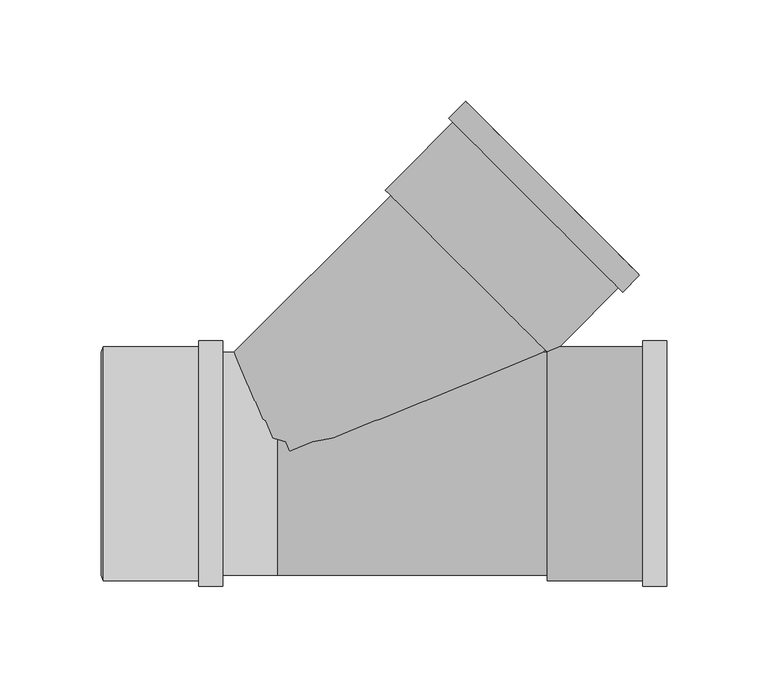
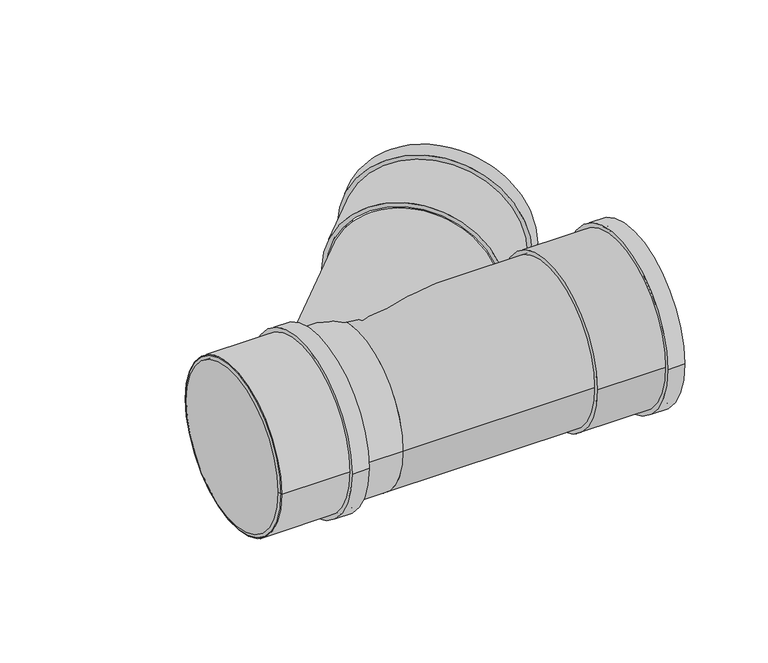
"""IFC4 building model written with IfcOpenShell, lengths in millimetres: pipe fitting geometry, Superdrain SKEA Branch : Superdrain SKEA Branch."""

from ifc_helpers import new_model, si_unit, point, frame, origin, origin_2d, place, context, project, spatial, polyline, circle_curve, ellipse_curve, trimmed, segment, composite_curve, outline, extrude, source, transform, mapped, element, save
from ifc_brep_helpers import plane_surface, cylinder_surface, revolved_surface, advanced_brep


def pipe_fitting_ecd3c65b(model_context):
    return source(origin(), model_context, "Body", "SolidModel", [
        extrude(outline(composite_curve([segment(trimmed(circle_curve(origin_2d(), 57.75), [point((57.75, 0.0))], [point((-57.75, 0.0))], False, "CARTESIAN"), True, "CONTINUOUS"), segment(trimmed(circle_curve(origin_2d(), 57.75), [point((-57.75, 0.0))], [point((57.75, 0.0))], False, "CARTESIAN"), True, "CONTINUOUS")], self_intersect=False), holes=[composite_curve([segment(trimmed(circle_curve(origin_2d(), 55.0), [point((55.0, 0.0))], [point((-55.0, 0.0))], True, "CARTESIAN"), True, "CONTINUOUS"), segment(trimmed(circle_curve(origin_2d(), 55.0), [point((-55.0, 0.0))], [point((55.0, 0.0))], True, "CARTESIAN"), True, "CONTINUOUS")], self_intersect=False)]), frame((-85.8, 0.0, 0.0), z_axis=(1.0, 0.0, 0.0), x_axis=(0.0, 1.0, 0.0)), (0.0, 0.0, 1.0), 59.0),
        extrude(outline(composite_curve([segment(trimmed(circle_curve(origin_2d(), 60.6375), [point((60.6375, 0.0))], [point((-60.6375, 0.0))], False, "CARTESIAN"), True, "CONTINUOUS"), segment(trimmed(circle_curve(origin_2d(), 60.6375), [point((-60.6375, 0.0))], [point((60.6375, 0.0))], False, "CARTESIAN"), True, "CONTINUOUS")], self_intersect=False), holes=[composite_curve([segment(trimmed(circle_curve(origin_2d(), 55.0), [point((55.0, 0.0))], [point((-55.0, 0.0))], True, "CARTESIAN"), True, "CONTINUOUS"), segment(trimmed(circle_curve(origin_2d(), 55.0), [point((-55.0, 0.0))], [point((55.0, 0.0))], True, "CARTESIAN"), True, "CONTINUOUS")], self_intersect=False)]), frame((-38.6, 0.0, 0.0), z_axis=(1.0, 0.0, 0.0), x_axis=(0.0, 1.0, 0.0)), (0.0, 0.0, 1.0), 11.8),
        advanced_brep(
        [(-86.8, 55.0, 0.0), (-86.8, -55.0, 0.0), (-85.8, 57.75, 0.0), (-85.8, -57.75, 0.0)],
        [
            (0, 1, circle_curve(frame((-86.8, 0.0, 0.0), z_axis=(-1.0, 0.0, 0.0), x_axis=(0.0, 1.0000000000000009, 0.0)), 55.0)),
            (1, 0, circle_curve(frame((-86.8, 0.0, 0.0), z_axis=(-1.0, 0.0, 0.0), x_axis=(0.0, -1.0000000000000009, 0.0)), 55.0)),
            (2, 3, circle_curve(frame((-85.8, 0.0, 0.0), z_axis=(1.0, 0.0, 0.0), x_axis=(0.0, -1.0000000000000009, 0.0)), 57.75)),
            (3, 2, circle_curve(frame((-85.8, 0.0, 0.0), z_axis=(1.0, 0.0, 0.0), x_axis=(0.0, 1.0000000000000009, 0.0)), 57.75)),
            (3, 1),
            (0, 2),
        ],
        [
            plane_surface(frame((-86.8, 0.0, 0.0), z_axis=(-1.0, 0.0, 0.0), x_axis=(0.0, 0.0, -1.0))),
            plane_surface(frame((-85.8, 0.0, 0.0), z_axis=(1.0, 0.0, 0.0), x_axis=(0.0, 0.0, -1.0))),
            revolved_surface(polyline([(-86.8, 54.99999999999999, 0.0), (-85.8, 57.75, 0.0)]), (-106.8, 0.0, 0.0), (1.0000000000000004, 0.0, 0.0)),
            revolved_surface(polyline([(-86.8, -54.99999999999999, 0.0), (-85.8, -57.75, 0.0)]), (-106.8, 0.0, 0.0), (1.0000000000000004, 0.0, 0.0)),
        ],
        [
            (0, [[1, 2]]),
            (1, [[3, 4]]),
            (2, [[-4, 5, -1, 6]]),
            (3, [[-3, -6, -2, -5]]),
        ],
    ),
        advanced_brep(
        [(132.2996788, 56.0735677, 0.0), (56.0735677, 132.2996788, 0.0), (-22.326111, 53.9, 0.0), (0.0, 0.0, 53.9), (130.126111, 53.9, 0.0), (0.0, 0.0, -53.9)],
        [
            (0, 1, circle_curve(frame((94.1866233, 94.1866233, 0.0), z_axis=(0.7071067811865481, 0.707106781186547, 0.0), x_axis=(-0.707106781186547, 0.7071067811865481, 0.0)), 53.9)),
            (1, 0, circle_curve(frame((94.1866233, 94.1866233, 0.0), z_axis=(0.7071067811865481, 0.707106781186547, 0.0), x_axis=(-0.707106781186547, 0.7071067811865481, 0.0)), 53.9)),
            (1, 2),
            (2, 3, ellipse_curve(frame((0.0, 0.0, 0.0), z_axis=(0.923879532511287, 0.38268343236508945, 0.0), x_axis=(0.38268343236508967, -0.923879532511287, 0.0)), 58.3409396, 53.9)),
            (3, 4, ellipse_curve(frame((0.0, 0.0, 0.0), z_axis=(-0.3826834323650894, 0.9238795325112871, 0.0), x_axis=(-0.9238795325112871, -0.38268343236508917, 0.0)), 140.8474876, 53.9)),
            (4, 0),
            (4, 5, ellipse_curve(frame((0.0, 0.0, 0.0), z_axis=(-0.3826834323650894, 0.9238795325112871, 0.0), x_axis=(-0.9238795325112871, -0.38268343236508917, 0.0)), 140.8474876, 53.9)),
            (5, 2, ellipse_curve(frame((0.0, 0.0, 0.0), z_axis=(0.923879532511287, 0.38268343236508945, 0.0), x_axis=(0.38268343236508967, -0.923879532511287, 0.0)), 58.3409396, 53.9)),
            (2, 4),
        ],
        [
            plane_surface(frame((94.1866233, 94.1866233, 0.0), z_axis=(0.7071067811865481, 0.707106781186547, 0.0), x_axis=(0.0, 0.0, 1.0))),
            cylinder_surface(frame((0.0, 0.0, 0.0), z_axis=(-0.7071067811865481, -0.707106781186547, 0.0), x_axis=(-0.707106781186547, 0.7071067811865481, 0.0)), 53.9),
            revolved_surface(polyline([(-130.1261109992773, 53.9, 0.0), (130.12611099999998, 53.9, 0.0)]), (-90.8, 0.0, 0.0), (-1.0, 0.0, 0.0)),
        ],
        [
            (0, [[1, 2]]),
            (1, [[-2, 3, 4, 5, 6]]),
            (1, [[-1, -6, 7, 8, -3]]),
            (2, [[9, -5, -4]]),
            (2, [[-9, -8, -7]]),
        ],
    ),
        advanced_brep(
        [(133.2, -57.75, 0.0), (133.2, 57.75, 0.0), (192.2, -57.75, 0.0), (192.2, 57.75, 0.0), (192.2, -55.0, 0.0), (192.2, 55.0, 0.0), (134.2, -55.0, 0.0), (134.2, 55.0, 0.0)],
        [
            (0, 1, circle_curve(frame((133.2, 0.0, 0.0), z_axis=(-1.0, 0.0, 0.0), x_axis=(0.0, 1.0, 0.0)), 57.75)),
            (1, 0, circle_curve(frame((133.2, 0.0, 0.0), z_axis=(-1.0, 0.0, 0.0), x_axis=(0.0, 1.0, 0.0)), 57.75)),
            (2, 3, circle_curve(frame((192.2, 0.0, 0.0), z_axis=(1.0, 0.0, 0.0), x_axis=(0.0, 1.0, 0.0)), 57.75)),
            (3, 2, circle_curve(frame((192.2, 0.0, 0.0), z_axis=(1.0, 0.0, 0.0), x_axis=(0.0, 1.0, 0.0)), 57.75)),
            (4, 5, circle_curve(frame((192.2, 0.0, 0.0), z_axis=(-1.0, 0.0, 0.0), x_axis=(0.0, 1.0, 0.0)), 55.0)),
            (5, 4, circle_curve(frame((192.2, 0.0, 0.0), z_axis=(-1.0, 0.0, 0.0), x_axis=(0.0, 1.0, 0.0)), 55.0)),
            (0, 2),
            (3, 1),
            (6, 7, circle_curve(frame((134.2, 0.0, 0.0), z_axis=(-1.0, 0.0, 0.0), x_axis=(0.0, 1.0, 0.0)), 55.0)),
            (7, 5),
            (4, 6),
            (7, 6, circle_curve(frame((134.2, 0.0, 0.0), z_axis=(-1.0, 0.0, 0.0), x_axis=(0.0, 1.0, 0.0)), 55.0)),
        ],
        [
            plane_surface(frame((133.2, 0.0, 0.0), z_axis=(-1.0, 0.0, 0.0), x_axis=(0.0, 0.0, 1.0))),
            plane_surface(frame((192.2, 0.0, 0.0), z_axis=(1.0, 0.0, 0.0), x_axis=(0.0, 0.0, 1.0))),
            cylinder_surface(frame((133.2, 0.0, 0.0), z_axis=(-1.0, 0.0, 0.0), x_axis=(0.0, 1.0, 0.0)), 57.75),
            revolved_surface(polyline([(134.2, 55.0, 0.0), (192.2, 55.0, 0.0)]), (134.2, 0.0, 0.0), (-1.0, 0.0, 0.0)),
            plane_surface(frame((134.2, 0.0, 0.0), z_axis=(1.0, 0.0, 0.0), x_axis=(0.0, 0.0, 1.0))),
        ],
        [
            (0, [[1, 2]]),
            (1, [[3, 4], [5, 6]]),
            (2, [[-1, 7, -4, 8]]),
            (2, [[-2, -8, -3, -7]]),
            (3, [[9, 10, -5, 11]]),
            (3, [[12, -11, -6, -10]]),
            (4, [[-12, -9]]),
        ],
    ),
        extrude(outline(composite_curve([segment(trimmed(circle_curve(origin_2d(), 60.6375), [point((60.6375, 0.0))], [point((-60.6375, 0.0))], False, "CARTESIAN"), True, "CONTINUOUS"), segment(trimmed(circle_curve(origin_2d(), 60.6375), [point((-60.6375, 0.0))], [point((60.6375, 0.0))], False, "CARTESIAN"), True, "CONTINUOUS")], self_intersect=False), holes=[composite_curve([segment(trimmed(circle_curve(origin_2d(), 55.0), [point((55.0, 0.0))], [point((-55.0, 0.0))], True, "CARTESIAN"), True, "CONTINUOUS"), segment(trimmed(circle_curve(origin_2d(), 55.0), [point((-55.0, 0.0))], [point((55.0, 0.0))], True, "CARTESIAN"), True, "CONTINUOUS")], self_intersect=False)]), frame((180.4, 0.0, 0.0), z_axis=(1.0, 0.0, 0.0), x_axis=(0.0, 1.0, 0.0)), (0.0, 0.0, 1.0), 11.8),
        extrude(outline(composite_curve([segment(trimmed(circle_curve(origin_2d(), 55.0), [point((55.0, 0.0))], [point((-55.0, 0.0))], False, "CARTESIAN"), True, "CONTINUOUS"), segment(trimmed(circle_curve(origin_2d(), 55.0), [point((-55.0, 0.0))], [point((55.0, 0.0))], False, "CARTESIAN"), True, "CONTINUOUS")], self_intersect=False)), frame((-85.8, 0.0, 0.0), z_axis=(1.0, 0.0, 0.0), x_axis=(0.0, 1.0, 0.0)), (0.0, 0.0, 1.0), 85.8),
        extrude(outline(composite_curve([segment(trimmed(circle_curve(origin_2d(), 55.0), [point((-55.0, 0.0))], [point((55.0, 0.0))], False, "CARTESIAN"), True, "CONTINUOUS"), segment(trimmed(circle_curve(origin_2d(), 55.0), [point((55.0, 0.0))], [point((-55.0, 0.0))], False, "CARTESIAN"), True, "CONTINUOUS")], self_intersect=False)), frame((0.0, 0.0, 0.0), z_axis=(1.0, 0.0, 0.0), x_axis=(0.0, 1.0, 0.0)), (0.0, 0.0, 1.0), 133.2),
        extrude(outline(composite_curve([segment(trimmed(circle_curve(origin_2d(), 60.6375), [point((0.0, 60.6375))], [point((0.0, -60.6375))], False, "CARTESIAN"), True, "CONTINUOUS"), segment(trimmed(circle_curve(origin_2d(), 60.6375), [point((0.0, -60.6375))], [point((0.0, 60.6375))], False, "CARTESIAN"), True, "CONTINUOUS")], self_intersect=False), holes=[composite_curve([segment(trimmed(circle_curve(origin_2d(), 55.0), [point((0.0, 55.0))], [point((0.0, -55.0))], True, "CARTESIAN"), True, "CONTINUOUS"), segment(trimmed(circle_curve(origin_2d(), 55.0), [point((0.0, -55.0))], [point((0.0, 55.0))], True, "CARTESIAN"), True, "CONTINUOUS")], self_intersect=False)]), frame((127.5620633, 127.5620633, 0.0), z_axis=(0.7071067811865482, 0.7071067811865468, 0.0), x_axis=(0.0, 0.0, 1.0)), (0.0, 0.0, 1.0), 11.8),
        extrude(outline(composite_curve([segment(trimmed(circle_curve(origin_2d(), 57.75), [point((0.0, 57.7500001))], [point((0.0, -57.7500001))], False, "CARTESIAN"), True, "CONTINUOUS"), segment(trimmed(circle_curve(origin_2d(), 57.75), [point((0.0, -57.7500001))], [point((0.0, 57.7500001))], False, "CARTESIAN"), True, "CONTINUOUS")], self_intersect=False), holes=[composite_curve([segment(trimmed(circle_curve(origin_2d(), 55.0), [point((0.0, 55.0))], [point((0.0, -55.0))], True, "CARTESIAN"), True, "CONTINUOUS"), segment(trimmed(circle_curve(origin_2d(), 55.0), [point((0.0, -55.0))], [point((0.0, 55.0))], True, "CARTESIAN"), True, "CONTINUOUS")], self_intersect=False)]), frame((94.1866233, 94.1866233, 0.0), z_axis=(0.7071067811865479, 0.7071067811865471, 0.0), x_axis=(0.0, 0.0, 1.0)), (0.0, 0.0, 1.0), 59.0),
    ])


if __name__ == "__main__":
    model = new_model("IFC4")
    model_context = context("Model", 3, world=origin())
    ifc_project = project(units=[si_unit("LENGTHUNIT", "METRE", prefix="MILLI")], contexts=[model_context])
    site = spatial("IfcSite", under=ifc_project)
    building = spatial("IfcBuilding", under=site)
    placement = place(None, origin())
    pipe_fitting_shape = pipe_fitting_ecd3c65b(model_context)
    element("IfcPipeFitting", 1, ObjectType="Superdrain SKEA Branch : Superdrain SKEA Branch", at=placement, inside=building, context=model_context, shape_type="MappedRepresentation", body=[
        mapped(pipe_fitting_shape, transform((0.0, 0.0, 0.0), x_axis=(1.0, 0.0, 0.0), y_axis=(0.0, 1.0, 0.0), z_axis=(0.0, 0.0, 1.0))),
    ])
    save(model, "model.ifc")
